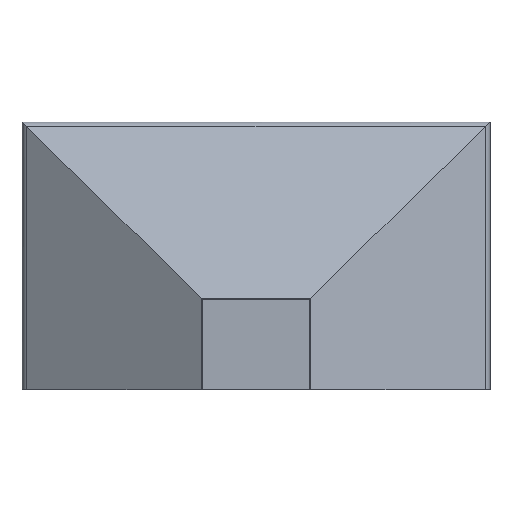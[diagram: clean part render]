
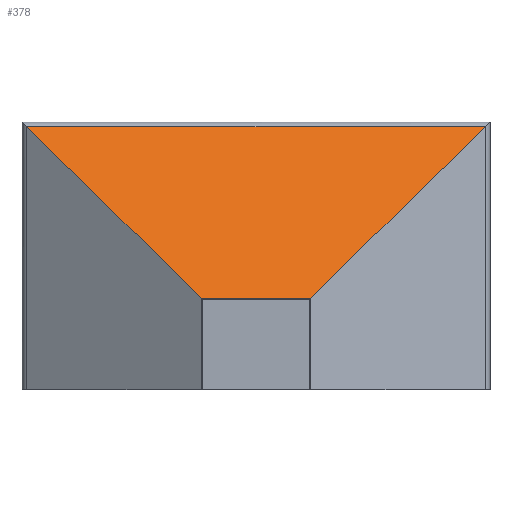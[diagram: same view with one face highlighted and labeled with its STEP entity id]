
A CAD part, top view. The second image highlights one B-rep face of the part: STEP entity #378.
In plain terms, the highlighted planar face has unit normal (0, 0.559, 0.829).
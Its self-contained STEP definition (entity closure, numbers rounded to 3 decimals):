
#189=CARTESIAN_POINT('Vertex',(-440.029,505.184,5.947)) ;
#192=CARTESIAN_POINT('Line Origine',(0.,505.184,5.947)) ;
#196=CARTESIAN_POINT('Vertex',(440.029,505.184,5.947)) ;
#292=CARTESIAN_POINT('Vertex',(-105.052,175.976,228.)) ;
#308=CARTESIAN_POINT('Vertex',(105.052,175.976,228.)) ;
#311=CARTESIAN_POINT('Line Origine',(0.,175.976,228.)) ;
#329=CARTESIAN_POINT('Control Point',(440.029,505.184,5.947)) ;
#330=CARTESIAN_POINT('Control Point',(105.052,175.976,228.)) ;
#356=CARTESIAN_POINT('Control Point',(-440.029,505.184,5.947)) ;
#357=CARTESIAN_POINT('Control Point',(-105.052,175.976,228.)) ;
#367=CARTESIAN_POINT('Axis2P3D Location',(0.,514.,0.)) ;
#193=DIRECTION('Vector Direction',(1.,0.,0.)) ;
#312=DIRECTION('Vector Direction',(1.,0.,0.)) ;
#368=DIRECTION('Axis2P3D Direction',(-0.,0.559,0.829)) ;
#369=DIRECTION('Axis2P3D XDirection',(1.,0.,0.)) ;
#370=AXIS2_PLACEMENT_3D('Plane Axis2P3D',#367,#368,#369) ;
#373=ORIENTED_EDGE('',*,*,#358,.F.) ;
#374=ORIENTED_EDGE('',*,*,#315,.F.) ;
#375=ORIENTED_EDGE('',*,*,#331,.F.) ;
#376=ORIENTED_EDGE('',*,*,#198,.F.) ;
#194=VECTOR('Line Direction',#193,1.) ;
#313=VECTOR('Line Direction',#312,1.) ;
#378=ADVANCED_FACE('Involucro',(#377),#371,.T.) ;
#328=B_SPLINE_CURVE_WITH_KNOTS('',1,(#329,#330),.UNSPECIFIED.,.F.,.U.,(2,2),(-252.801,266.714),.UNSPECIFIED.) ;
#355=B_SPLINE_CURVE_WITH_KNOTS('',1,(#356,#357),.UNSPECIFIED.,.F.,.U.,(2,2),(-252.801,266.714),.UNSPECIFIED.) ;
#198=EDGE_CURVE('',#190,#197,#195,.T.) ;
#315=EDGE_CURVE('',#309,#293,#314,.F.) ;
#331=EDGE_CURVE('',#197,#309,#328,.T.) ;
#358=EDGE_CURVE('',#293,#190,#355,.F.) ;
#372=EDGE_LOOP('',(#373,#374,#375,#376)) ;
#377=FACE_OUTER_BOUND('',#372,.T.) ;
#195=LINE('Line',#192,#194) ;
#314=LINE('Line',#311,#313) ;
#371=PLANE('',#370) ;
#190=VERTEX_POINT('',#189) ;
#197=VERTEX_POINT('',#196) ;
#293=VERTEX_POINT('',#292) ;
#309=VERTEX_POINT('',#308) ;
